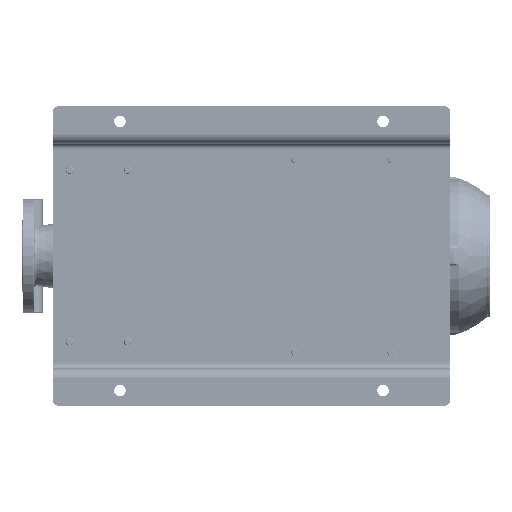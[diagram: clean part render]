
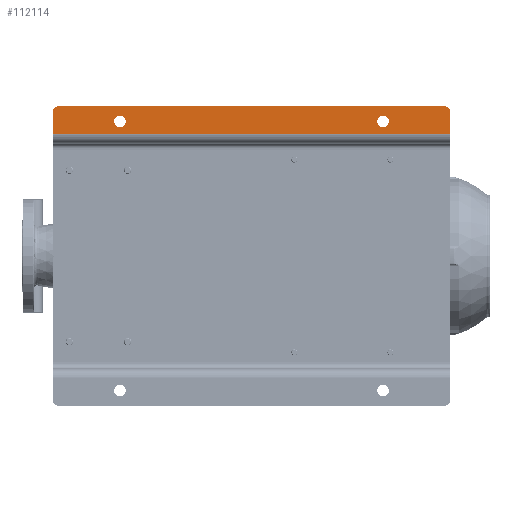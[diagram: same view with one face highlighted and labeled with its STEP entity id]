
A CAD part, front view. The second image highlights one B-rep face of the part: STEP entity #112114.
In plain terms, the highlighted planar face has unit normal (0, -1, 0).
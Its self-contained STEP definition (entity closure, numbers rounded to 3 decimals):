
#2239 = CARTESIAN_POINT ( 'NONE',  ( 445., 0., -650. ) ) ;
#3182 = CARTESIAN_POINT ( 'NONE',  ( 465., 0., -540. ) ) ;
#5487 = AXIS2_PLACEMENT_3D ( 'NONE', #36342, #144519, #131120 ) ;
#7908 = CIRCLE ( 'NONE', #127846, 9.5 ) ;
#10573 = EDGE_CURVE ( 'NONE', #13819, #137701, #27483, .T. ) ;
#10732 = ORIENTED_EDGE ( 'NONE', *, *, #10573, .T. ) ;
#13819 = VERTEX_POINT ( 'NONE', #103075 ) ;
#14381 = ORIENTED_EDGE ( 'NONE', *, *, #67774, .T. ) ;
#17447 = DIRECTION ( 'NONE',  ( 0., 1., 0. ) ) ;
#18769 = EDGE_LOOP ( 'NONE', ( #130645, #126675, #106274, #10732, #42999, #158644 ) ) ;
#22743 = DIRECTION ( 'NONE',  ( 0., 0., -1. ) ) ;
#25556 = DIRECTION ( 'NONE',  ( 0., -1., 0. ) ) ;
#27483 = CIRCLE ( 'NONE', #158701, 10. ) ;
#30524 = CARTESIAN_POINT ( 'NONE',  ( 429., 0., 0. ) ) ;
#31976 = EDGE_CURVE ( 'NONE', #156453, #157391, #78027, .T. ) ;
#32082 = DIRECTION ( 'NONE',  ( 0., 0., -1. ) ) ;
#34701 = LINE ( 'NONE', #105319, #63543 ) ;
#35941 = VERTEX_POINT ( 'NONE', #111663 ) ;
#36342 = CARTESIAN_POINT ( 'NONE',  ( 465., 0., -540. ) ) ;
#36625 = DIRECTION ( 'NONE',  ( 0., 0., -1. ) ) ;
#36769 = LINE ( 'NONE', #51037, #44964 ) ;
#38281 = DIRECTION ( 'NONE',  ( 0., 0., -1. ) ) ;
#38926 = CARTESIAN_POINT ( 'NONE',  ( 429., 0., -650. ) ) ;
#42999 = ORIENTED_EDGE ( 'NONE', *, *, #157047, .T. ) ;
#43566 = EDGE_CURVE ( 'NONE', #155153, #13819, #36769, .T. ) ;
#44964 = VECTOR ( 'NONE', #77868, 1000. ) ;
#45962 = CARTESIAN_POINT ( 'NONE',  ( 490., 0., -10. ) ) ;
#49041 = AXIS2_PLACEMENT_3D ( 'NONE', #63791, #92404, #22743 ) ;
#49883 = DIRECTION ( 'NONE',  ( 0., 1., 0. ) ) ;
#49984 = DIRECTION ( 'NONE',  ( 0., 1., 0. ) ) ;
#51037 = CARTESIAN_POINT ( 'NONE',  ( 429., 0., -650. ) ) ;
#53207 = FACE_OUTER_BOUND ( 'NONE', #18769, .T. ) ;
#59224 = AXIS2_PLACEMENT_3D ( 'NONE', #38926, #25556, #80047 ) ;
#59936 = LINE ( 'NONE', #30524, #86353 ) ;
#60945 = CIRCLE ( 'NONE', #112417, 9.5 ) ;
#62991 = ORIENTED_EDGE ( 'NONE', *, *, #138743, .T. ) ;
#63543 = VECTOR ( 'NONE', #89216, 1000. ) ;
#63757 = CIRCLE ( 'NONE', #49041, 10. ) ;
#63791 = CARTESIAN_POINT ( 'NONE',  ( 480., 0., -10. ) ) ;
#64016 = CARTESIAN_POINT ( 'NONE',  ( 480., 0., 0. ) ) ;
#65201 = CARTESIAN_POINT ( 'NONE',  ( 465., 0., -110. ) ) ;
#65737 = FACE_BOUND ( 'NONE', #143272, .T. ) ;
#65779 = CARTESIAN_POINT ( 'NONE',  ( 490., 0., -640. ) ) ;
#66864 = EDGE_CURVE ( 'NONE', #35941, #138803, #59936, .T. ) ;
#67774 = EDGE_CURVE ( 'NONE', #136760, #80842, #60945, .T. ) ;
#73931 = CIRCLE ( 'NONE', #5487, 9.5 ) ;
#77868 = DIRECTION ( 'NONE',  ( 1., 0., 0. ) ) ;
#78027 = CIRCLE ( 'NONE', #100892, 9.5 ) ;
#80047 = DIRECTION ( 'NONE',  ( 0., 0., -1. ) ) ;
#80842 = VERTEX_POINT ( 'NONE', #141054 ) ;
#80901 = ORIENTED_EDGE ( 'NONE', *, *, #31976, .T. ) ;
#84836 = CARTESIAN_POINT ( 'NONE',  ( 480., 0., -640. ) ) ;
#86353 = VECTOR ( 'NONE', #156472, 1000. ) ;
#89216 = DIRECTION ( 'NONE',  ( 0., 0., 1. ) ) ;
#91695 = FACE_BOUND ( 'NONE', #149234, .T. ) ;
#92404 = DIRECTION ( 'NONE',  ( 0., -1., 0. ) ) ;
#93408 = DIRECTION ( 'NONE',  ( 0., 0., -1. ) ) ;
#96121 = CARTESIAN_POINT ( 'NONE',  ( 474.5, 0., -540. ) ) ;
#98403 = VERTEX_POINT ( 'NONE', #45962 ) ;
#99824 = EDGE_CURVE ( 'NONE', #98403, #138803, #63757, .T. ) ;
#100892 = AXIS2_PLACEMENT_3D ( 'NONE', #3182, #17447, #111315 ) ;
#103075 = CARTESIAN_POINT ( 'NONE',  ( 480., 0., -650. ) ) ;
#105319 = CARTESIAN_POINT ( 'NONE',  ( 490., 0., -650. ) ) ;
#106274 = ORIENTED_EDGE ( 'NONE', *, *, #43566, .T. ) ;
#111315 = DIRECTION ( 'NONE',  ( 0., 0., -1. ) ) ;
#111663 = CARTESIAN_POINT ( 'NONE',  ( 445., 0., 0. ) ) ;
#112114 = ADVANCED_FACE ( 'NONE', ( #91695, #65737, #53207 ), #161384, .T. ) ;
#112390 = ORIENTED_EDGE ( 'NONE', *, *, #123984, .T. ) ;
#112417 = AXIS2_PLACEMENT_3D ( 'NONE', #174157, #49883, #38281 ) ;
#123984 = EDGE_CURVE ( 'NONE', #80842, #136760, #7908, .T. ) ;
#124655 = LINE ( 'NONE', #2239, #130887 ) ;
#126675 = ORIENTED_EDGE ( 'NONE', *, *, #149407, .T. ) ;
#127846 = AXIS2_PLACEMENT_3D ( 'NONE', #65201, #49984, #36625 ) ;
#130645 = ORIENTED_EDGE ( 'NONE', *, *, #66864, .F. ) ;
#130887 = VECTOR ( 'NONE', #93408, 1000. ) ;
#131120 = DIRECTION ( 'NONE',  ( 0., 0., -1. ) ) ;
#132392 = CARTESIAN_POINT ( 'NONE',  ( 474.5, 0., -110. ) ) ;
#136760 = VERTEX_POINT ( 'NONE', #132392 ) ;
#137701 = VERTEX_POINT ( 'NONE', #65779 ) ;
#138743 = EDGE_CURVE ( 'NONE', #157391, #156453, #73931, .T. ) ;
#138803 = VERTEX_POINT ( 'NONE', #64016 ) ;
#141054 = CARTESIAN_POINT ( 'NONE',  ( 455.5, 0., -110. ) ) ;
#141148 = DIRECTION ( 'NONE',  ( 0., -1., 0. ) ) ;
#143272 = EDGE_LOOP ( 'NONE', ( #80901, #62991 ) ) ;
#144519 = DIRECTION ( 'NONE',  ( 0., 1., 0. ) ) ;
#145894 = CARTESIAN_POINT ( 'NONE',  ( 445., 0., -650. ) ) ;
#149234 = EDGE_LOOP ( 'NONE', ( #112390, #14381 ) ) ;
#149407 = EDGE_CURVE ( 'NONE', #35941, #155153, #124655, .T. ) ;
#155153 = VERTEX_POINT ( 'NONE', #145894 ) ;
#156453 = VERTEX_POINT ( 'NONE', #166862 ) ;
#156472 = DIRECTION ( 'NONE',  ( 1., 0., 0. ) ) ;
#157047 = EDGE_CURVE ( 'NONE', #137701, #98403, #34701, .T. ) ;
#157391 = VERTEX_POINT ( 'NONE', #96121 ) ;
#158644 = ORIENTED_EDGE ( 'NONE', *, *, #99824, .T. ) ;
#158701 = AXIS2_PLACEMENT_3D ( 'NONE', #84836, #141148, #32082 ) ;
#161384 = PLANE ( 'NONE',  #59224 ) ;
#166862 = CARTESIAN_POINT ( 'NONE',  ( 455.5, 0., -540. ) ) ;
#174157 = CARTESIAN_POINT ( 'NONE',  ( 465., 0., -110. ) ) ;
